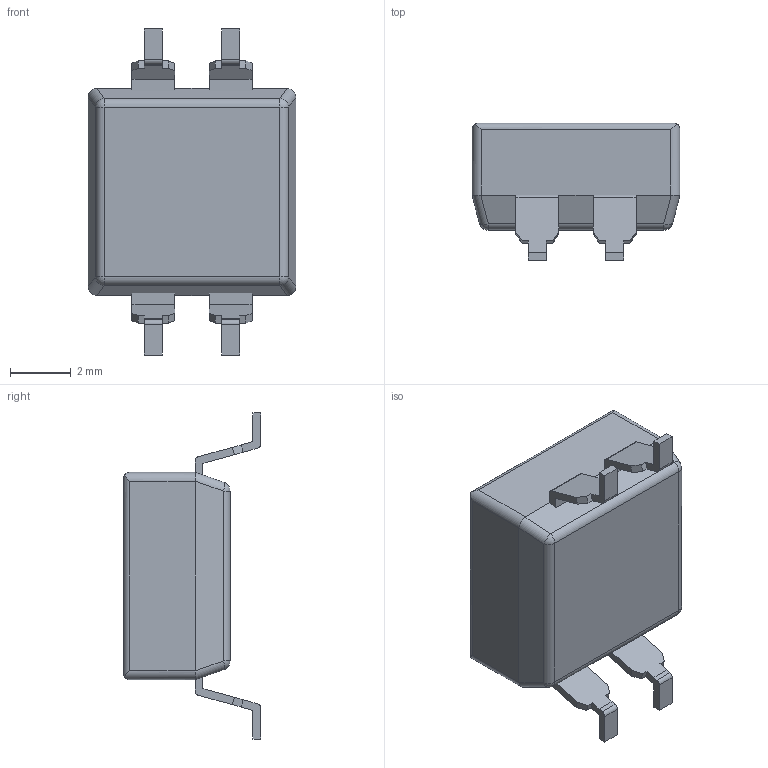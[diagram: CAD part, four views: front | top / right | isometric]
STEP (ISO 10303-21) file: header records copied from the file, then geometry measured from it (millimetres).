
FILE_DESCRIPTION (( 'STEP AP214' ), '1' );
FILE_NAME ('SSGM720101.STEP', '2011-04-13T01:10:46', ( '' ), ( '' ), 'SwSTEP 2.0', 'SolidWorks 2007', '' );
FILE_SCHEMA (( 'AUTOMOTIVE_DESIGN' ));
Length unit declared in the file: millimetre
Products named in the file (1): SSGM720101
Bounding box: 6.82 x 4.5 x 10.7 mm (x, y, z)
Volume: 156.3 mm3; surface area: 281.9 mm2
Topology: 2 solids, 2 shells, 154 faces, 418 edges, 268 vertices
Faces by surface type: plane 120, cylinder 30, sphere 4
Entity records: 5996 total; most frequent: CARTESIAN_POINT 917, ORIENTED_EDGE 828, DIRECTION 740, EDGE_CURVE 414, VECTOR 350, LINE 350, VERTEX_POINT 268, AXIS2_PLACEMENT_3D 195
